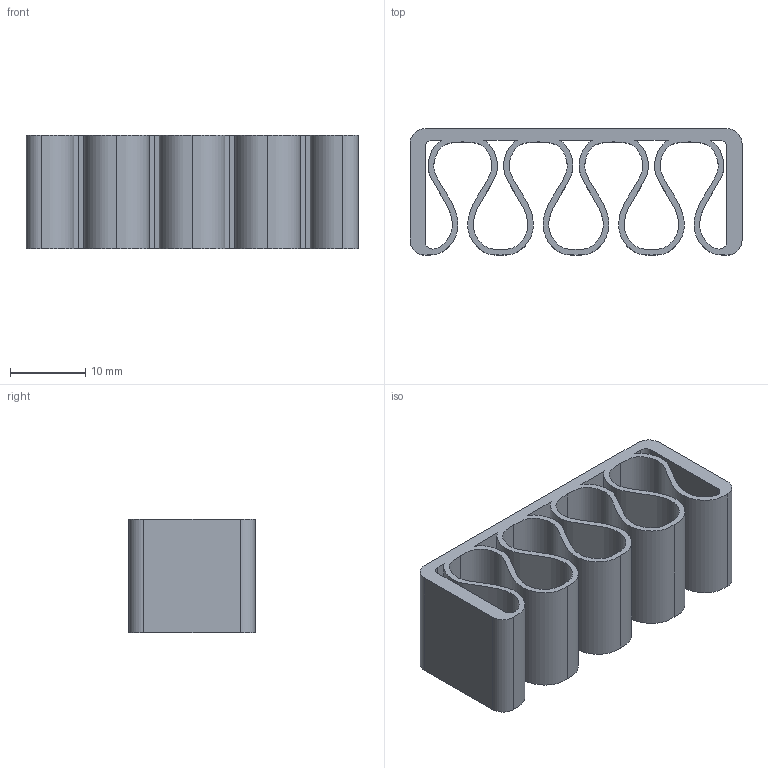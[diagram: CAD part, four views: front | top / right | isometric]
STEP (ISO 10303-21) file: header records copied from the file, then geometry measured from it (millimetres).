
FILE_DESCRIPTION(/* description */ ('Unknown','CAx-IF Rec.Pracs.---Representation and Presentation of Product Manufacturing Information (PMI)---4.0---2014-10-13','CAx-IF Rec.Pracs.---3D Tessellated Geometry---0.4---2014-09-14','2;1'),/* implementation_level */ '2;1');
FILE_NAME(/* name */ 'UniversalCableHolder_4_slots',/* time_stamp */ '2025-01-02T19:58:58+01:00',/* author */ ('Unknown'),/* organization */ ('Unknown'),/* preprocessor_version */ 'ST-DEVELOPER v19.4',/* originating_system */ 'Solid Edge',/* authorisation */ 'Unknown');
FILE_SCHEMA (('AP242_MANAGED_MODEL_BASED_3D_ENGINEERING_MIM_LF { 1 0 10303 442 1 1 4 }'));
Length unit declared in the file: millimetre
Products named in the file (1): UniversalCableHolder_40mm
Bounding box: 44 x 16.75 x 15 mm (x, y, z)
Volume: 3621.9 mm3; surface area: 7017.2 mm2
Topology: 1 solids, 1 shells, 36 faces, 102 edges, 68 vertices
Faces by surface type: bspline 16, plane 12, cylinder 8
Entity records: 2082 total; most frequent: CARTESIAN_POINT 1192, ORIENTED_EDGE 204, DIRECTION 130, EDGE_CURVE 102, VERTEX_POINT 68, LINE 54, VECTOR 54, EDGE_LOOP 46
